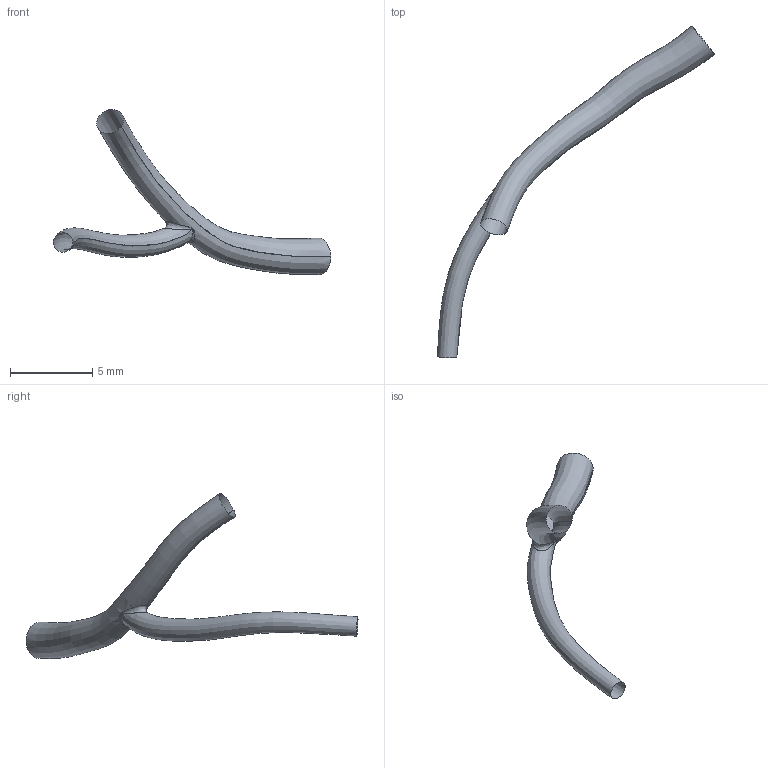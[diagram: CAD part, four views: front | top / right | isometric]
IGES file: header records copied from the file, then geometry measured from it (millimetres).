
Global section: file name: C:\Documents and Settings\Administrator\Desktop\FDA-Pig\Domestic LCA\Pig_000004\om.ed.igs; native system: Rhinoceros ( May 19 2006 ); preprocessor: Trout Lake IGES 012 May 19 2006; date: 111205.183201; units: centimetre
Bounding box: 16.83 x 20.16 x 10.02 mm (x, y, z)
Surface area: 180.6 mm2 (no closed solid volume)
Topology: 0 solids, 0 shells, 3 faces, 50 edges, 47 vertices
Faces by surface type: bspline 3
